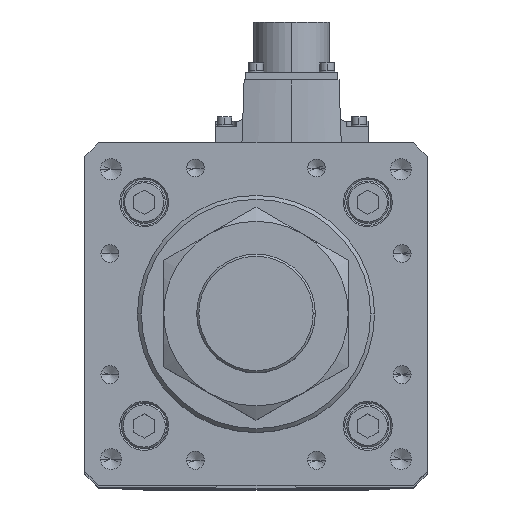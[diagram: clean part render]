
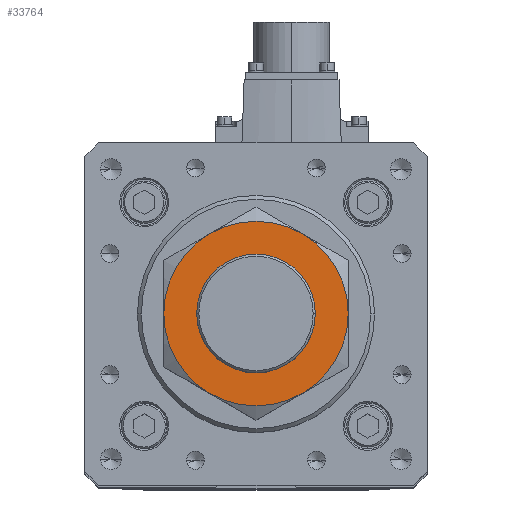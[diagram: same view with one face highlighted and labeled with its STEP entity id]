
A CAD part, top view. The second image highlights one B-rep face of the part: STEP entity #33764.
In plain terms, the highlighted planar face has unit normal (0, 0, 1).
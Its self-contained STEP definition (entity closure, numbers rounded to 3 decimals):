
#219 = DIRECTION ( 'NONE',  ( 0., 0., -1. ) ) ;
#531 = EDGE_CURVE ( 'NONE', #4282, #31693, #11463, .T. ) ;
#1450 = EDGE_CURVE ( 'NONE', #31693, #13884, #31264, .T. ) ;
#1743 = DIRECTION ( 'NONE',  ( -1., 0., 0. ) ) ;
#2630 = DIRECTION ( 'NONE',  ( -1., 0., 0. ) ) ;
#3422 = DIRECTION ( 'NONE',  ( -1., 0., 0. ) ) ;
#4282 = VERTEX_POINT ( 'NONE', #31706 ) ;
#5641 = VERTEX_POINT ( 'NONE', #10532 ) ;
#6122 = DIRECTION ( 'NONE',  ( -1., 0., 0. ) ) ;
#6146 = CARTESIAN_POINT ( 'NONE',  ( 0., 0., 27. ) ) ;
#6159 = DIRECTION ( 'NONE',  ( 0., 0., -1. ) ) ;
#6955 = EDGE_CURVE ( 'NONE', #13884, #15211, #7002, .T. ) ;
#7002 = CIRCLE ( 'NONE', #14220, 35. ) ;
#7286 = CARTESIAN_POINT ( 'NONE',  ( 17.5, 30.311, 27. ) ) ;
#7533 = AXIS2_PLACEMENT_3D ( 'NONE', #12215, #6159, #35703 ) ;
#8729 = ORIENTED_EDGE ( 'NONE', *, *, #531, .F. ) ;
#8774 = VERTEX_POINT ( 'NONE', #12871 ) ;
#8844 = EDGE_CURVE ( 'NONE', #29779, #5641, #27459, .T. ) ;
#9605 = DIRECTION ( 'NONE',  ( 1., 0., 0. ) ) ;
#10532 = CARTESIAN_POINT ( 'NONE',  ( -22.5, 0., 27. ) ) ;
#10540 = DIRECTION ( 'NONE',  ( 0., 0., -1. ) ) ;
#10543 = DIRECTION ( 'NONE',  ( 1., 0., 0. ) ) ;
#10779 = DIRECTION ( 'NONE',  ( 0., 0., 1. ) ) ;
#10802 = DIRECTION ( 'NONE',  ( 0., 0., 1. ) ) ;
#11028 = CARTESIAN_POINT ( 'NONE',  ( -17.5, -30.311, 27. ) ) ;
#11098 = AXIS2_PLACEMENT_3D ( 'NONE', #22093, #10779, #22225 ) ;
#11463 = CIRCLE ( 'NONE', #33541, 35. ) ;
#12215 = CARTESIAN_POINT ( 'NONE',  ( 0., 0., 27. ) ) ;
#12871 = CARTESIAN_POINT ( 'NONE',  ( -35., 0., 27. ) ) ;
#13462 = PLANE ( 'NONE',  #11098 ) ;
#13884 = VERTEX_POINT ( 'NONE', #29656 ) ;
#14220 = AXIS2_PLACEMENT_3D ( 'NONE', #26525, #219, #3422 ) ;
#14247 = CIRCLE ( 'NONE', #28967, 35. ) ;
#14715 = CARTESIAN_POINT ( 'NONE',  ( 0., 0., 27. ) ) ;
#15211 = VERTEX_POINT ( 'NONE', #36548 ) ;
#15702 = AXIS2_PLACEMENT_3D ( 'NONE', #6146, #20435, #9605 ) ;
#16197 = ORIENTED_EDGE ( 'NONE', *, *, #6955, .F. ) ;
#16825 = CARTESIAN_POINT ( 'NONE',  ( 0., 0., 27. ) ) ;
#17218 = DIRECTION ( 'NONE',  ( 0., 0., -1. ) ) ;
#18688 = FACE_BOUND ( 'NONE', #23064, .T. ) ;
#18789 = ORIENTED_EDGE ( 'NONE', *, *, #8844, .F. ) ;
#19689 = AXIS2_PLACEMENT_3D ( 'NONE', #37109, #10802, #10543 ) ;
#20277 = ORIENTED_EDGE ( 'NONE', *, *, #35211, .F. ) ;
#20435 = DIRECTION ( 'NONE',  ( 0., 0., 1. ) ) ;
#22093 = CARTESIAN_POINT ( 'NONE',  ( 0., 0., 27. ) ) ;
#22225 = DIRECTION ( 'NONE',  ( 1., 0., 0. ) ) ;
#22322 = CIRCLE ( 'NONE', #7533, 35. ) ;
#22335 = FACE_OUTER_BOUND ( 'NONE', #25291, .T. ) ;
#23064 = EDGE_LOOP ( 'NONE', ( #33718, #18789 ) ) ;
#23887 = ORIENTED_EDGE ( 'NONE', *, *, #1450, .F. ) ;
#24286 = AXIS2_PLACEMENT_3D ( 'NONE', #14715, #32515, #26957 ) ;
#24932 = AXIS2_PLACEMENT_3D ( 'NONE', #38231, #38101, #6122 ) ;
#24995 = CARTESIAN_POINT ( 'NONE',  ( 0., 0., 27. ) ) ;
#25291 = EDGE_LOOP ( 'NONE', ( #16197, #23887, #8729, #20277, #34031, #38239 ) ) ;
#26525 = CARTESIAN_POINT ( 'NONE',  ( 0., 0., 27. ) ) ;
#26957 = DIRECTION ( 'NONE',  ( -1., 0., 0. ) ) ;
#27459 = CIRCLE ( 'NONE', #19689, 22.5 ) ;
#28967 = AXIS2_PLACEMENT_3D ( 'NONE', #16825, #17218, #2630 ) ;
#29000 = EDGE_CURVE ( 'NONE', #38128, #8774, #36377, .T. ) ;
#29656 = CARTESIAN_POINT ( 'NONE',  ( 35., 0., 27. ) ) ;
#29779 = VERTEX_POINT ( 'NONE', #33377 ) ;
#30886 = CIRCLE ( 'NONE', #15702, 22.5 ) ;
#31264 = CIRCLE ( 'NONE', #24932, 35. ) ;
#31591 = EDGE_CURVE ( 'NONE', #5641, #29779, #30886, .T. ) ;
#31693 = VERTEX_POINT ( 'NONE', #7286 ) ;
#31706 = CARTESIAN_POINT ( 'NONE',  ( -17.5, 30.311, 27. ) ) ;
#32515 = DIRECTION ( 'NONE',  ( 0., 0., -1. ) ) ;
#33377 = CARTESIAN_POINT ( 'NONE',  ( 22.5, 0., 27. ) ) ;
#33541 = AXIS2_PLACEMENT_3D ( 'NONE', #24995, #10540, #1743 ) ;
#33718 = ORIENTED_EDGE ( 'NONE', *, *, #31591, .F. ) ;
#33764 = ADVANCED_FACE ( 'NONE', ( #22335, #18688 ), #13462, .T. ) ;
#34031 = ORIENTED_EDGE ( 'NONE', *, *, #29000, .F. ) ;
#35211 = EDGE_CURVE ( 'NONE', #8774, #4282, #14247, .T. ) ;
#35703 = DIRECTION ( 'NONE',  ( -1., 0., 0. ) ) ;
#36377 = CIRCLE ( 'NONE', #24286, 35. ) ;
#36548 = CARTESIAN_POINT ( 'NONE',  ( 17.5, -30.311, 27. ) ) ;
#37109 = CARTESIAN_POINT ( 'NONE',  ( 0., 0., 27. ) ) ;
#37751 = EDGE_CURVE ( 'NONE', #15211, #38128, #22322, .T. ) ;
#38101 = DIRECTION ( 'NONE',  ( 0., 0., -1. ) ) ;
#38128 = VERTEX_POINT ( 'NONE', #11028 ) ;
#38231 = CARTESIAN_POINT ( 'NONE',  ( 0., 0., 27. ) ) ;
#38239 = ORIENTED_EDGE ( 'NONE', *, *, #37751, .F. ) ;
